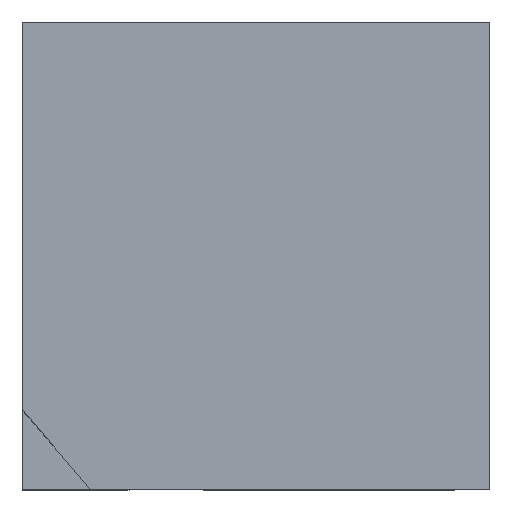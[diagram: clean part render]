
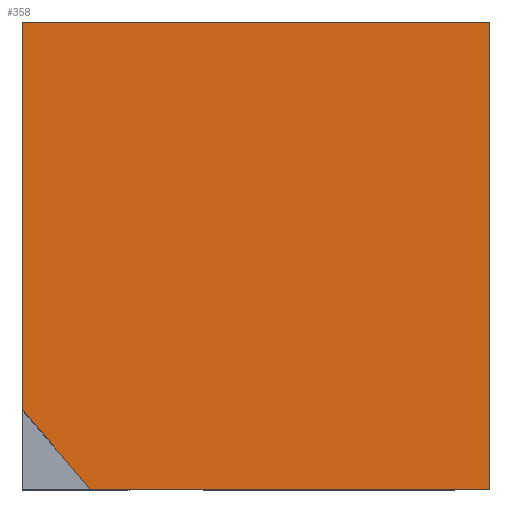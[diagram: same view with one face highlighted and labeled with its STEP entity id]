
A CAD part, top view. The second image highlights one B-rep face of the part: STEP entity #358.
In plain terms, the highlighted planar face has unit normal (0, 0, 1).
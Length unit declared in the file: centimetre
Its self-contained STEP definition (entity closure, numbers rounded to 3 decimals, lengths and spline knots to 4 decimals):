
#5 = EDGE_CURVE ( 'NONE', #140, #19, #560, .T. ) ;
#19 = VERTEX_POINT ( 'NONE', #869 ) ;
#35 = VECTOR ( 'NONE', #674, 100. ) ;
#55 = EDGE_LOOP ( 'NONE', ( #799, #221, #199, #566, #551 ) ) ;
#58 = LINE ( 'NONE', #373, #35 ) ;
#109 = CARTESIAN_POINT ( 'NONE',  ( 0., 0., 1000. ) ) ;
#121 = CARTESIAN_POINT ( 'NONE',  ( 1000., 1000., 1000. ) ) ;
#133 = DIRECTION ( 'NONE',  ( 1., 0., 0. ) ) ;
#140 = VERTEX_POINT ( 'NONE', #189 ) ;
#189 = CARTESIAN_POINT ( 'NONE',  ( 145.614, 0., 1000. ) ) ;
#195 = EDGE_CURVE ( 'NONE', #19, #708, #586, .T. ) ;
#199 = ORIENTED_EDGE ( 'NONE', *, *, #195, .T. ) ;
#207 = VECTOR ( 'NONE', #423, 100. ) ;
#221 = ORIENTED_EDGE ( 'NONE', *, *, #5, .T. ) ;
#224 = DIRECTION ( 'NONE',  ( -0.651, 0.759, 0. ) ) ;
#295 = LINE ( 'NONE', #299, #387 ) ;
#299 = CARTESIAN_POINT ( 'NONE',  ( 0., 1000., 1000. ) ) ;
#339 = EDGE_CURVE ( 'NONE', #140, #382, #664, .T. ) ;
#358 = ADVANCED_FACE ( 'NONE', ( #831 ), #453, .T. ) ;
#369 = EDGE_CURVE ( 'NONE', #736, #382, #295, .T. ) ;
#373 = CARTESIAN_POINT ( 'NONE',  ( 0., 1000., 1000. ) ) ;
#382 = VERTEX_POINT ( 'NONE', #743 ) ;
#387 = VECTOR ( 'NONE', #748, 100. ) ;
#417 = EDGE_CURVE ( 'NONE', #708, #736, #58, .T. ) ;
#423 = DIRECTION ( 'NONE',  ( 1., 0., 0. ) ) ;
#453 = PLANE ( 'NONE',  #951 ) ;
#551 = ORIENTED_EDGE ( 'NONE', *, *, #369, .T. ) ;
#560 = LINE ( 'NONE', #109, #207 ) ;
#566 = ORIENTED_EDGE ( 'NONE', *, *, #417, .T. ) ;
#586 = LINE ( 'NONE', #121, #685 ) ;
#656 = VECTOR ( 'NONE', #224, 100. ) ;
#664 = LINE ( 'NONE', #670, #656 ) ;
#670 = CARTESIAN_POINT ( 'NONE',  ( 0., 169.8457, 1000. ) ) ;
#674 = DIRECTION ( 'NONE',  ( -1., 0., 0. ) ) ;
#685 = VECTOR ( 'NONE', #965, 100. ) ;
#708 = VERTEX_POINT ( 'NONE', #722 ) ;
#722 = CARTESIAN_POINT ( 'NONE',  ( 1000., 1000., 1000. ) ) ;
#736 = VERTEX_POINT ( 'NONE', #876 ) ;
#743 = CARTESIAN_POINT ( 'NONE',  ( 0., 169.8457, 1000. ) ) ;
#748 = DIRECTION ( 'NONE',  ( 0., -1., 0. ) ) ;
#755 = CARTESIAN_POINT ( 'NONE',  ( 0., 0., 1000. ) ) ;
#799 = ORIENTED_EDGE ( 'NONE', *, *, #339, .F. ) ;
#831 = FACE_OUTER_BOUND ( 'NONE', #55, .T. ) ;
#869 = CARTESIAN_POINT ( 'NONE',  ( 1000., 0., 1000. ) ) ;
#876 = CARTESIAN_POINT ( 'NONE',  ( 0., 1000., 1000. ) ) ;
#951 = AXIS2_PLACEMENT_3D ( 'NONE', #755, #981, #133 ) ;
#965 = DIRECTION ( 'NONE',  ( 0., 1., 0. ) ) ;
#981 = DIRECTION ( 'NONE',  ( 0., 0., 1. ) ) ;
